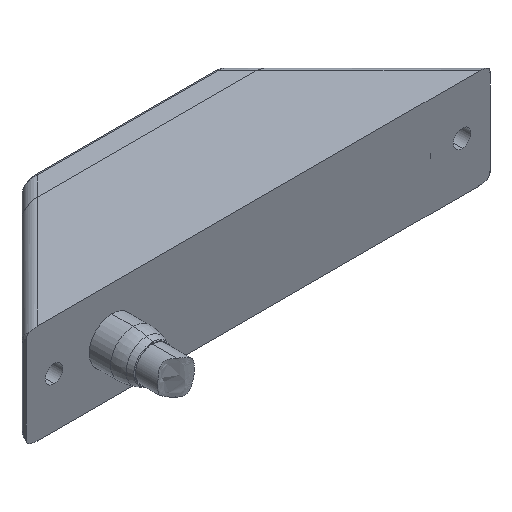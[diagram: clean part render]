
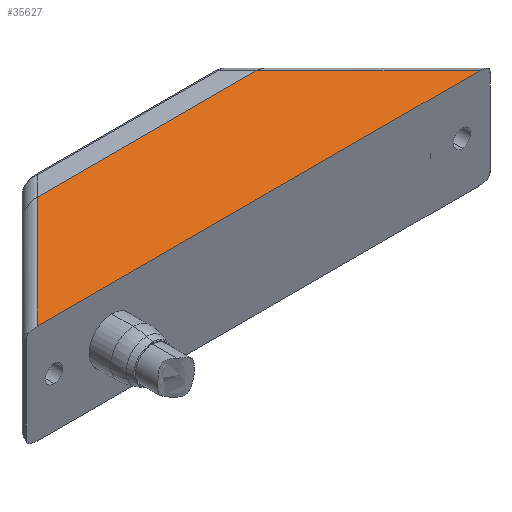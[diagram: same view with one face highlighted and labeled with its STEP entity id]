
A CAD part, isometric view. The second image highlights one B-rep face of the part: STEP entity #35627.
In plain terms, the highlighted planar face has unit normal (0, 0, 1).
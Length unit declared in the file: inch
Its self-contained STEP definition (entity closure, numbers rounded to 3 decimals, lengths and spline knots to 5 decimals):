
#502 = DIRECTION ( 'NONE',  ( 0., 0., -1. ) ) ;
#2775 = CARTESIAN_POINT ( 'NONE',  ( -1.45, 1.3, 0.5795 ) ) ;
#4524 = LINE ( 'NONE', #42170, #40387 ) ;
#4803 = DIRECTION ( 'NONE',  ( -0.707, 0.707, 0. ) ) ;
#4873 = ORIENTED_EDGE ( 'NONE', *, *, #8226, .T. ) ;
#6099 = VERTEX_POINT ( 'NONE', #25152 ) ;
#6248 = CARTESIAN_POINT ( 'NONE',  ( -1.27322, 1.3, 0.5795 ) ) ;
#8226 = EDGE_CURVE ( 'NONE', #38294, #26048, #27349, .T. ) ;
#10771 = CARTESIAN_POINT ( 'NONE',  ( -2.57322, 0., 0.5795 ) ) ;
#14529 = CARTESIAN_POINT ( 'NONE',  ( 2.57322, 0., 0.5795 ) ) ;
#15410 = EDGE_CURVE ( 'NONE', #26048, #40338, #4524, .T. ) ;
#16287 = ORIENTED_EDGE ( 'NONE', *, *, #19886, .T. ) ;
#16414 = LINE ( 'NONE', #2775, #18156 ) ;
#17068 = CARTESIAN_POINT ( 'NONE',  ( 0., 2.75, 0.5795 ) ) ;
#17277 = DIRECTION ( 'NONE',  ( -1., 0., 0. ) ) ;
#17889 = DIRECTION ( 'NONE',  ( -0.707, -0.707, 0. ) ) ;
#18156 = VECTOR ( 'NONE', #29665, 39.37008 ) ;
#19886 = EDGE_CURVE ( 'NONE', #40338, #6099, #25239, .T. ) ;
#22229 = DIRECTION ( 'NONE',  ( 1., 0., 0. ) ) ;
#22688 = PLANE ( 'NONE',  #40729 ) ;
#25152 = CARTESIAN_POINT ( 'NONE',  ( 1.27322, 1.3, 0.5795 ) ) ;
#25239 = LINE ( 'NONE', #38895, #38512 ) ;
#26048 = VERTEX_POINT ( 'NONE', #10771 ) ;
#27349 = LINE ( 'NONE', #41015, #27423 ) ;
#27423 = VECTOR ( 'NONE', #17889, 39.37008 ) ;
#27621 = EDGE_LOOP ( 'NONE', ( #30828, #4873, #28395, #16287 ) ) ;
#28395 = ORIENTED_EDGE ( 'NONE', *, *, #15410, .T. ) ;
#29665 = DIRECTION ( 'NONE',  ( -1., 0., 0. ) ) ;
#30828 = ORIENTED_EDGE ( 'NONE', *, *, #32205, .T. ) ;
#32205 = EDGE_CURVE ( 'NONE', #6099, #38294, #16414, .T. ) ;
#35627 = ADVANCED_FACE ( 'NONE', ( #36377 ), #22688, .F. ) ;
#36377 = FACE_OUTER_BOUND ( 'NONE', #27621, .T. ) ;
#38294 = VERTEX_POINT ( 'NONE', #6248 ) ;
#38512 = VECTOR ( 'NONE', #4803, 39.37008 ) ;
#38895 = CARTESIAN_POINT ( 'NONE',  ( -0.08839, 2.66161, 0.5795 ) ) ;
#40338 = VERTEX_POINT ( 'NONE', #14529 ) ;
#40387 = VECTOR ( 'NONE', #22229, 39.37008 ) ;
#40729 = AXIS2_PLACEMENT_3D ( 'NONE', #17068, #502, #17277 ) ;
#41015 = CARTESIAN_POINT ( 'NONE',  ( 0.08839, 2.66161, 0.5795 ) ) ;
#42170 = CARTESIAN_POINT ( 'NONE',  ( -2.75, 0., 0.5795 ) ) ;
